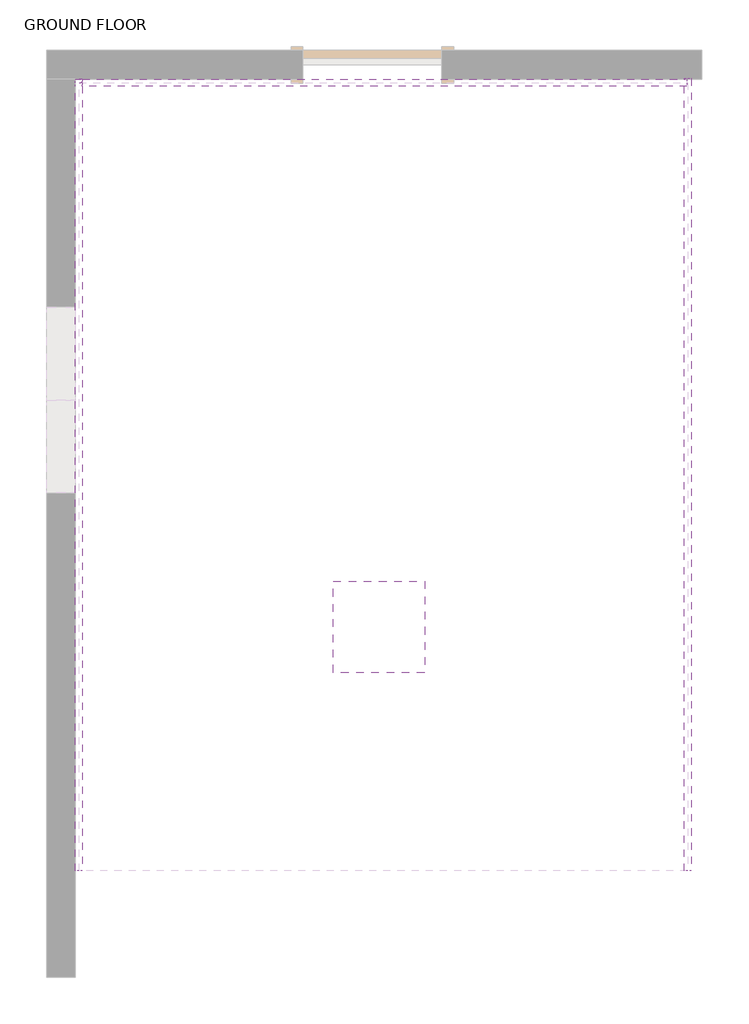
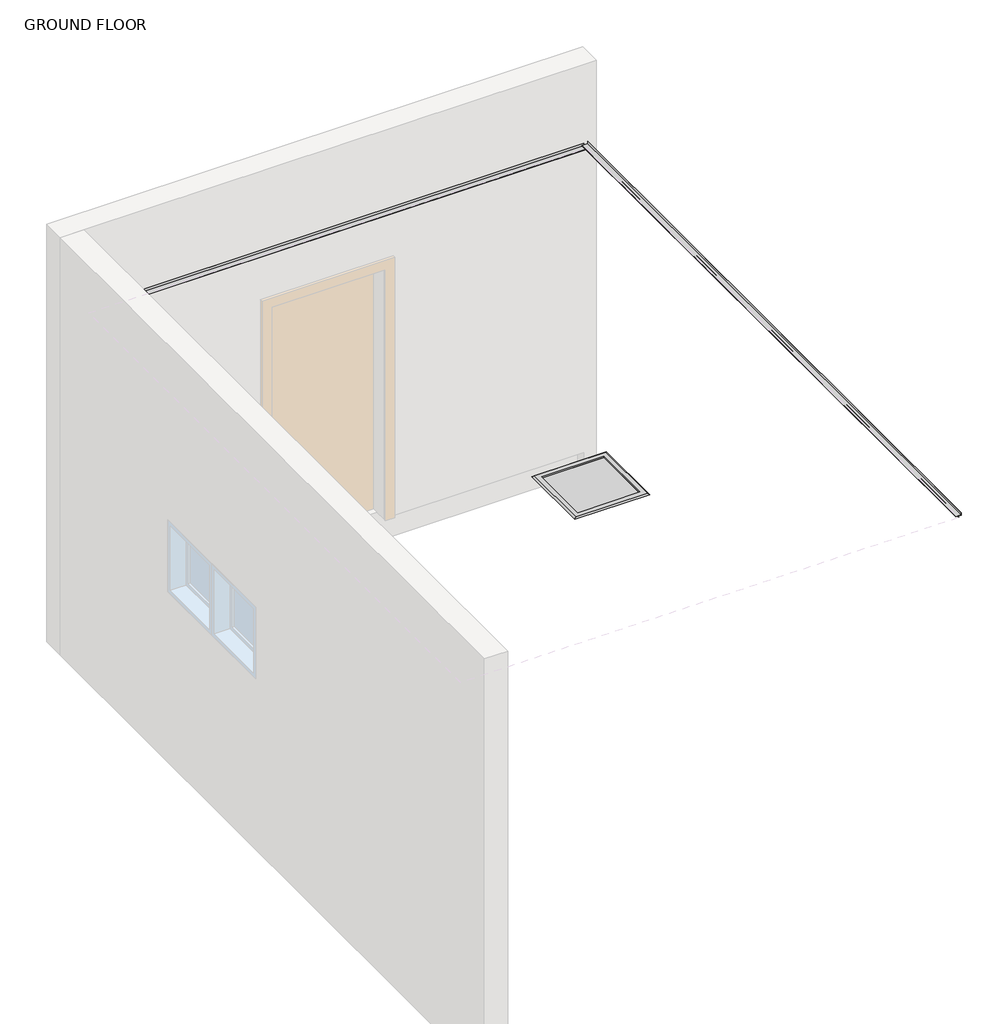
# One storey, part 2 of 2: 4 proxies.
"""IFC4 building model written with IfcOpenShell, lengths in millimetres."""

from ifc_helpers import new_model, si_unit, point, frame, frame_2d, origin, place, context, project, spatial, polyline, circle_curve, trimmed, segment, composite_curve, outline, extrude, faceted_brep, element, save

model = new_model("IFC4")

# Units and contexts
model_context = context("Model", 3, world=origin())
ifc_project = project(units=[si_unit("LENGTHUNIT", "METRE", prefix="MILLI")], contexts=[model_context])

# Site, building, storey
site = spatial("IfcSite", under=ifc_project)
building = spatial("IfcBuilding", under=site)
storey = spatial("IfcBuildingStorey", under=building, Name="GROUND FLOOR", Elevation=0.0)

# Proxies
placement = place(None, origin())
element("IfcBuildingElementProxy", 1, Name="Flushline Outer Frame : Flushline Outer Frame", ObjectType="Flushline Outer Frame : Flushline Outer Frame", at=placement, inside=storey, context=model_context, shape_type="SolidModel", body=[
    faceted_brep([(152182.6212716, 38871.9489557, 2611.475), (152182.6212716, 38361.2489557, 2611.475), (152693.3212716, 38361.2489557, 2611.475), (152693.3212716, 38871.9489557, 2611.475), (152188.9712716, 38865.5989557, 2611.475), (152686.9712716, 38865.5989557, 2611.475), (152686.9712716, 38367.5989557, 2611.475), (152188.9712716, 38367.5989557, 2611.475), (152182.6212716, 38871.9489557, 2600.0), (152693.3212716, 38871.9489557, 2600.0), (152693.3212716, 38361.2489557, 2600.0), (152182.6212716, 38361.2489557, 2600.0), (152188.9712716, 38865.5989557, 2600.0), (152188.9712716, 38367.5989557, 2600.0), (152686.9712716, 38367.5989557, 2600.0), (152686.9712716, 38865.5989557, 2600.0), (152182.6212716, 38871.9489557, 2607.0), (152182.6212716, 38361.2489557, 2607.0), (152693.3212716, 38361.2489557, 2607.0), (152693.3212716, 38871.9489557, 2607.0)], [[[0, 1, 2, 3], [4, 5, 6, 7]], [[8, 9, 10, 11], [12, 13, 14, 15]], [[5, 4, 12, 15]], [[6, 5, 15, 14]], [[7, 6, 14, 13]], [[4, 7, 13, 12]], [[1, 0, 16, 8, 11, 17]], [[2, 1, 17, 11, 10, 18]], [[3, 2, 18, 10, 9, 19]], [[0, 3, 19, 9, 8, 16]]]),
    extrude(outline(polyline([(152188.9712716, 38865.5989557), (152686.9712716, 38865.5989557), (152686.9712716, 38367.5989557), (152188.9712716, 38367.5989557), (152188.9712716, 38865.5989557)])), frame((0.0, 0.0, 2600.0), z_axis=(0.0, 0.0, 1.0), x_axis=(1.0, 0.0, 0.0)), (0.0, 0.0, 1.0), 11.475),
    faceted_brep([(152188.9712716, 38865.5989557, 2621.0), (152188.9712716, 38865.5989557, 2611.475), (152686.9712716, 38865.5989557, 2611.475), (152686.9712716, 38865.5989557, 2621.0), (152686.9712716, 38367.5989557, 2611.475), (152686.9712716, 38367.5989557, 2621.0), (152188.9712716, 38367.5989557, 2611.475), (152188.9712716, 38367.5989557, 2621.0), (152737.7712716, 38916.3989557, 2611.475), (152737.7712716, 38316.7989557, 2611.475), (152138.1712716, 38316.7989557, 2611.475), (152138.1712716, 38916.3989557, 2611.475), (152150.8712716, 38903.6989557, 2621.0), (152150.8712716, 38329.4989557, 2621.0), (152725.0712716, 38329.4989557, 2621.0), (152725.0712716, 38903.6989557, 2621.0)], [[[0, 1, 2, 3]], [[3, 2, 4, 5]], [[5, 4, 6, 7]], [[8, 9, 10, 11], [1, 6, 4, 2]], [[12, 13, 14, 15], [3, 5, 7, 0]], [[7, 6, 1, 0]], [[11, 12, 15, 8]], [[8, 15, 14, 9]], [[9, 14, 13, 10]], [[10, 13, 12, 11]]]),
    extrude(outline(composite_curve([segment(trimmed(circle_curve(frame_2d((152278.9712716, 38433.9489557)), 10.0), [point((152278.9712716, 38423.9489557))], [point((152278.9712716, 38443.9489557))], False, "CARTESIAN"), True, "CONTINUOUS"), segment(trimmed(circle_curve(frame_2d((152278.9712716, 38433.9489557)), 10.0), [point((152278.9712716, 38443.9489557))], [point((152278.9712716, 38423.9489557))], False, "CARTESIAN"), True, "CONTINUOUS")], self_intersect=False)), frame((0.0, 0.0, 2593.65), z_axis=(0.0, 0.0, 1.0), x_axis=(1.0, 0.0, 0.0)), (0.0, 0.0, 1.0), 6.35),
    extrude(outline(composite_curve([segment(trimmed(circle_curve(frame_2d((152596.9712716, 38433.9489557)), 10.0), [point((152596.9712716, 38423.9489557))], [point((152596.9712716, 38443.9489557))], False, "CARTESIAN"), True, "CONTINUOUS"), segment(trimmed(circle_curve(frame_2d((152596.9712716, 38433.9489557)), 10.0), [point((152596.9712716, 38443.9489557))], [point((152596.9712716, 38423.9489557))], False, "CARTESIAN"), True, "CONTINUOUS")], self_intersect=False)), frame((0.0, 0.0, 2593.65), z_axis=(0.0, 0.0, 1.0), x_axis=(1.0, 0.0, 0.0)), (0.0, 0.0, 1.0), 6.35),
])
element("IfcBuildingElementProxy", 2, Name="TR07 : Trims Pelican Systems  Plaster Trim 7mm", ObjectType="TR07 : Trims Pelican Systems  Plaster Trim 7mm", at=placement, inside=storey, context=model_context, shape_type="Brep", body=[
    faceted_brep([(154460.7345529, 42216.9193804, 2608.0), (154460.7345529, 42171.9193804, 2608.0), (154460.7345529, 42171.9193804, 2607.0), (154460.7345529, 42193.9193804, 2607.0), (154460.7345529, 42193.9193804, 2598.0), (154460.7345529, 42194.9193804, 2598.0), (154460.7345529, 42194.9193804, 2607.0), (154460.7345529, 42217.9193804, 2607.0), (154460.7345529, 42217.9193804, 2615.0), (154460.7345529, 42216.9193804, 2615.0), (150443.7345529, 42217.9193804, 2628.0), (154460.7345529, 42217.9193804, 2628.0), (154460.7345529, 42217.9193804, 2616.0), (154445.7345529, 42217.9193804, 2616.0), (154445.7345529, 42217.9193804, 2615.0), (150488.7345529, 42217.9193804, 2607.0), (150488.7345529, 42217.9193804, 2608.0), (150443.7345529, 42217.9193804, 2608.0), (150488.7345529, 42194.9193804, 2607.0), (150466.7345529, 42194.9193804, 2598.0), (150466.7345529, 42194.9193804, 2607.0), (150466.7345529, 42193.9193804, 2598.0), (150488.7345529, 42171.9193804, 2608.0), (150488.7345529, 42171.9193804, 2607.0), (150488.7345529, 42216.9193804, 2608.0), (154460.7345529, 42216.9193804, 2628.0), (150443.7345529, 42216.9193804, 2628.0), (154460.7345529, 42216.9193804, 2616.0), (150443.7345529, 42216.9193804, 2608.0), (154445.7345529, 42216.9193804, 2615.0), (154445.7345529, 42216.9193804, 2616.0), (150488.7345529, 42193.9193804, 2607.0), (150466.7345529, 42193.9193804, 2607.0)], [[[0, 1, 2, 3, 4, 5, 6, 7, 8, 9]], [[10, 11, 12, 13, 14, 8, 7, 15, 16, 17]], [[7, 6, 18, 15]], [[6, 5, 19, 20, 18]], [[5, 4, 21, 19]], [[2, 1, 22, 23]], [[1, 0, 24, 22]], [[25, 11, 10, 26]], [[11, 25, 27, 12]], [[25, 26, 28, 24, 0, 9, 29, 30, 27]], [[4, 3, 31, 32, 21]], [[16, 15, 18, 31, 23, 22, 24]], [[29, 14, 13, 30]], [[17, 16, 24, 28]], [[20, 19, 21, 32]], [[10, 17, 28, 26]], [[3, 2, 23, 31]], [[31, 18, 20, 32]], [[30, 13, 12, 27]], [[14, 29, 9, 8]]]),
    faceted_brep([(150420.7345529, 42217.9193804, 2628.0), (150420.7345529, 42217.9193804, 2607.0), (150420.7345529, 42194.9193804, 2607.0), (150420.7345529, 42194.9193804, 2598.0), (150420.7345529, 42193.9193804, 2598.0), (150420.7345529, 42193.9193804, 2607.0), (150420.7345529, 42171.9193804, 2607.0), (150420.7345529, 42171.9193804, 2608.0), (150420.7345529, 42216.9193804, 2608.0), (150420.7345529, 42216.9193804, 2628.0), (150442.7345529, 42217.9193804, 2607.0), (150442.7345529, 42217.9193804, 2628.0), (150442.7345529, 42216.9193804, 2628.0), (150442.7345529, 42216.9193804, 2608.0), (150442.7345529, 42171.9193804, 2608.0), (150442.7345529, 42171.9193804, 2607.0), (150442.7345529, 42193.9193804, 2607.0), (150442.7345529, 42194.9193804, 2607.0), (150465.7345529, 42193.9193804, 2607.0), (150465.7345529, 42194.9193804, 2607.0), (150465.7345529, 42194.9193804, 2598.0), (150465.7345529, 42193.9193804, 2598.0)], [[[0, 1, 2, 3, 4, 5, 6, 7, 8, 9]], [[10, 11, 12, 13, 14, 15, 16, 17]], [[17, 16, 18, 19]], [[20, 19, 18, 21]], [[7, 6, 15, 14]], [[1, 0, 11, 10]], [[2, 1, 10, 17]], [[8, 7, 14, 13]], [[0, 9, 12, 11]], [[9, 8, 13, 12]], [[6, 5, 16, 15]], [[3, 2, 17, 19, 20]], [[4, 3, 20, 21]], [[5, 4, 21, 18, 16]]]),
])
element("IfcBuildingElementProxy", 3, Name="TR07 : Trims Pelican Systems  Plaster Trim 7mm", ObjectType="TR07 : Trims Pelican Systems  Plaster Trim 7mm", at=placement, inside=storey, context=model_context, shape_type="Brep", body=[
    faceted_brep([(154491.7345529, 37012.9193804, 2636.0), (154490.7345529, 37012.9193804, 2636.0), (154490.7345529, 37012.9193804, 2616.0), (154445.7345529, 37012.9193804, 2616.0), (154445.7345529, 37012.9193804, 2615.0), (154467.7345529, 37012.9193804, 2615.0), (154467.7345529, 37012.9193804, 2606.0), (154468.7345529, 37012.9193804, 2606.0), (154468.7345529, 37012.9193804, 2615.0), (154491.7345529, 37012.9193804, 2615.0), (154491.7345529, 42222.9193804, 2636.0), (154491.7345529, 42222.9193804, 2615.0), (154468.7345529, 42222.9193804, 2615.0), (154468.7345529, 42222.9193804, 2606.0), (154467.7345529, 42222.9193804, 2606.0), (154467.7345529, 42222.9193804, 2615.0), (154445.7345529, 42222.9193804, 2615.0), (154445.7345529, 42222.9193804, 2616.0), (154490.7345529, 42222.9193804, 2616.0), (154490.7345529, 42222.9193804, 2636.0), (154445.7345529, 42216.9193804, 2616.0), (154445.7345529, 42217.9193804, 2616.0), (154445.7345529, 42217.9193804, 2615.0), (154445.7345529, 42216.9193804, 2615.0)], [[[0, 1, 2, 3, 4, 5, 6, 7, 8, 9]], [[10, 11, 12, 13, 14, 15, 16, 17, 18, 19]], [[9, 11, 10, 0]], [[8, 12, 11, 9]], [[7, 13, 12, 8]], [[6, 14, 13, 7]], [[3, 20, 21, 17, 16, 22, 23, 4]], [[2, 18, 17, 21, 20, 3]], [[1, 19, 18, 2]], [[0, 10, 19, 1]], [[5, 15, 14, 6]], [[4, 23, 22, 16, 15, 5]]]),
])
element("IfcBuildingElementProxy", 4, Name="TR07 : Trims Pelican Systems  Plaster Trim 7mm", ObjectType="TR07 : Trims Pelican Systems  Plaster Trim 7mm", at=placement, inside=storey, context=model_context, shape_type="Brep", body=[
    faceted_brep([(150442.7345529, 42217.9193804, 2628.0), (150443.7345529, 42217.9193804, 2628.0), (150443.7345529, 42217.9193804, 2608.0), (150488.7345529, 42217.9193804, 2608.0), (150488.7345529, 42217.9193804, 2607.0), (150466.7345529, 42217.9193804, 2607.0), (150466.7345529, 42217.9193804, 2598.0), (150465.7345529, 42217.9193804, 2598.0), (150465.7345529, 42217.9193804, 2607.0), (150442.7345529, 42217.9193804, 2607.0), (150442.7345529, 37012.9193804, 2628.0), (150442.7345529, 37012.9193804, 2607.0), (150465.7345529, 37012.9193804, 2607.0), (150465.7345529, 37012.9193804, 2598.0), (150466.7345529, 37012.9193804, 2598.0), (150466.7345529, 37012.9193804, 2607.0), (150488.7345529, 37012.9193804, 2607.0), (150488.7345529, 37012.9193804, 2608.0), (150443.7345529, 37012.9193804, 2608.0), (150443.7345529, 37012.9193804, 2628.0), (150442.7345529, 42194.9193804, 2607.0), (150442.7345529, 42193.9193804, 2607.0), (150442.7345529, 42171.9193804, 2607.0), (150442.7345529, 42216.9193804, 2628.0), (150465.7345529, 42194.9193804, 2607.0), (150465.7345529, 42193.9193804, 2607.0), (150465.7345529, 42194.9193804, 2598.0), (150465.7345529, 42193.9193804, 2598.0), (150466.7345529, 42194.9193804, 2598.0), (150466.7345529, 42193.9193804, 2598.0), (150488.7345529, 42216.9193804, 2608.0), (150488.7345529, 42171.9193804, 2608.0), (150488.7345529, 42171.9193804, 2607.0), (150488.7345529, 42193.9193804, 2607.0), (150488.7345529, 42194.9193804, 2607.0), (150443.7345529, 42216.9193804, 2608.0), (150443.7345529, 42216.9193804, 2628.0), (150466.7345529, 42194.9193804, 2607.0), (150466.7345529, 42193.9193804, 2607.0)], [[[0, 1, 2, 3, 4, 5, 6, 7, 8, 9]], [[10, 11, 12, 13, 14, 15, 16, 17, 18, 19]], [[9, 20, 21, 22, 11, 10, 23, 0]], [[8, 24, 25, 12, 11, 22, 21, 20, 9]], [[7, 26, 27, 13, 12, 25, 24, 8]], [[6, 28, 29, 14, 13, 27, 26, 7]], [[3, 30, 31, 17, 16, 32, 33, 34, 4]], [[2, 35, 18, 17, 31, 30, 3]], [[0, 23, 10, 19, 36, 1]], [[5, 37, 38, 15, 14, 29, 28, 6]], [[1, 36, 19, 18, 35, 2]], [[4, 34, 33, 32, 16, 15, 38, 37, 5]]]),
])

save(model, "model.ifc")
